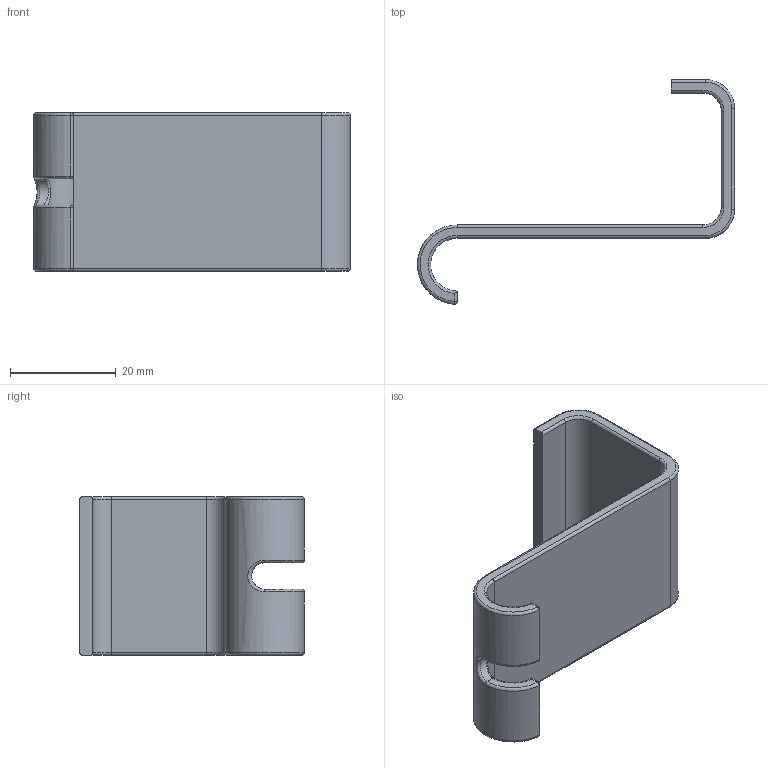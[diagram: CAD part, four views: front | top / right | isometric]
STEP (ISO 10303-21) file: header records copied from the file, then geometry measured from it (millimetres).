
FILE_DESCRIPTION(/* description */ (''),/* implementation_level */ '2;1');
FILE_NAME(/* name */ 'D:/3D-Zeugs/Nützliches/Kabelgedoens/Eigenbau/Kabelhalter v1.step',/* time_stamp */ '2022-03-20T14:14:30+01:00',/* author */ (''),/* organization */ (''),/* preprocessor_version */ 'ST-DEVELOPER v18.1',/* originating_system */ 'Autodesk Translation Framework v10.13.0.1454',/* authorisation */ '');
FILE_SCHEMA (('AUTOMOTIVE_DESIGN { 1 0 10303 214 3 1 1 }'));
Length unit declared in the file: millimetre
Products named in the file (1): Kabelhalter
Bounding box: 60 x 42.48 x 30 mm (x, y, z)
Volume: 7777.9 mm3; surface area: 6824.5 mm2
Topology: 1 solids, 1 shells, 60 faces, 134 edges, 76 vertices
Faces by surface type: cylinder 25, torus 16, plane 13, sphere 4, bspline 2
Entity records: 1856 total; most frequent: CARTESIAN_POINT 466, DIRECTION 316, ORIENTED_EDGE 268, EDGE_CURVE 134, AXIS2_PLACEMENT_3D 131, VERTEX_POINT 76, CIRCLE 72, FACE_OUTER_BOUND 60
